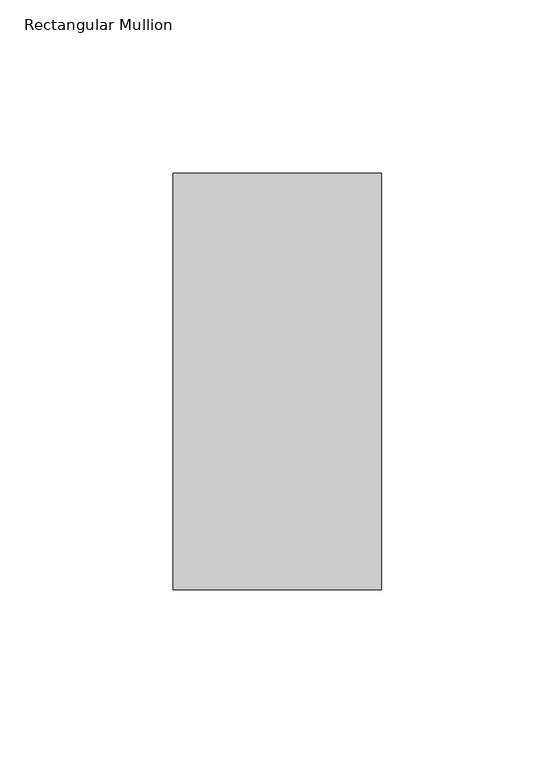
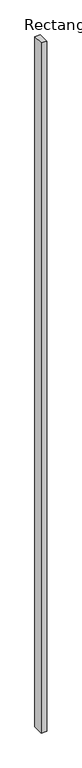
"""IFC4 building model written with IfcOpenShell, lengths in millimetres: member geometry, Rectangular Mullion : Terça."""

from ifc_helpers import new_model, si_unit, frame, origin, place, context, project, spatial, polyline, outline, extrude, source, transform, mapped, element, save


def rectangular_mullion_b55daf23(model_context):
    return source(origin(), model_context, "Body", "SweptSolid", [
        extrude(outline(polyline([(0.0, -120.0), (-60.0, -120.0), (-60.0, 0.0), (0.0, 0.0), (0.0, -120.0)])), frame((0.0, 0.0, -8000.0), z_axis=(0.0, 0.0, 1.0), x_axis=(1.0, 0.0, 0.0)), (0.0, 0.0, 1.0), 8000.0),
    ])


if __name__ == "__main__":
    model = new_model("IFC4")
    model_context = context("Model", 3, world=origin())
    ifc_project = project(units=[si_unit("LENGTHUNIT", "METRE", prefix="MILLI")], contexts=[model_context])
    site = spatial("IfcSite", under=ifc_project)
    building = spatial("IfcBuilding", under=site)
    placement = place(None, origin())
    rectangular_mullion_shape = rectangular_mullion_b55daf23(model_context)
    element("IfcMember", 1, ObjectType="Rectangular Mullion : Terça", at=placement, inside=building, context=model_context, shape_type="MappedRepresentation", body=[
        mapped(rectangular_mullion_shape, transform((0.0, 0.0, 0.0), x_axis=(1.0, 0.0, 0.0), y_axis=(0.0, 1.0, 0.0), z_axis=(0.0, 0.0, 1.0))),
    ])
    save(model, "model.ifc")
